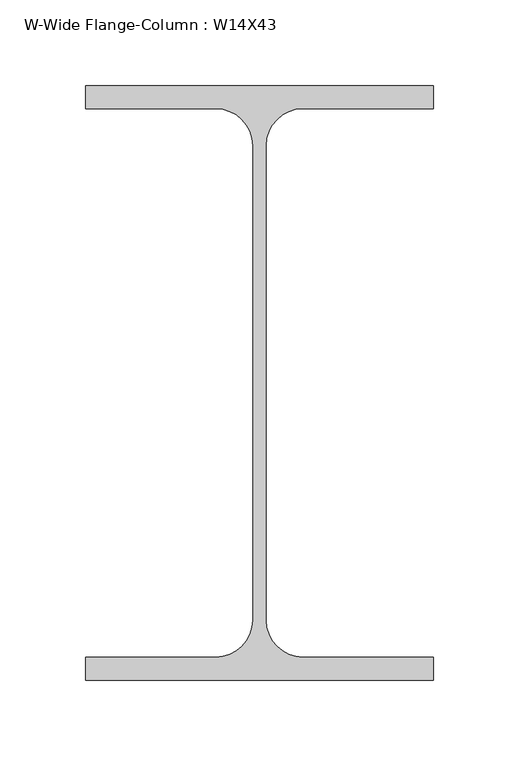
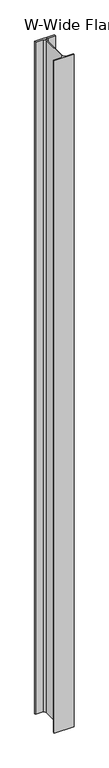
"""IFC4 building model written with IfcOpenShell, lengths in millimetres: column geometry, W-Wide Flange-Column : W14X43."""

from ifc_helpers import new_model, si_unit, point, frame_2d, origin, origin_with_axes, place, context, project, spatial, polyline, circle_curve, trimmed, segment, composite_curve, outline, extrude, source, transform, mapped, element, save


def w_wide_flange_column_w14x43_64da9754(model_context):
    return source(origin(), model_context, "Body", "SweptSolid", [
        extrude(outline(composite_curve([segment(polyline([(101.5503906, 173.4839844), (101.5503906, 159.9902344), (25.3007812, 159.9902344)]), True, "CONTINUOUS"), segment(trimmed(circle_curve(frame_2d((25.3007812, 138.5589844)), 21.43125), [point((25.3007812, 159.9902344))], [point((3.8695312, 138.5589844))], True, "CARTESIAN"), True, "CONTINUOUS"), segment(polyline([(3.8695312, 138.5589844), (3.8695312, -138.5589844)]), True, "CONTINUOUS"), segment(trimmed(circle_curve(frame_2d((25.3007812, -138.5589844)), 21.43125), [point((3.8695312, -138.5589844))], [point((25.3007812, -159.9902344))], True, "CARTESIAN"), True, "CONTINUOUS"), segment(polyline([(25.3007812, -159.9902344), (101.5503906, -159.9902344), (101.5503906, -173.4839844), (-101.5503906, -173.4839844), (-101.5503906, -159.9902344), (-25.3007813, -159.9902344)]), True, "CONTINUOUS"), segment(trimmed(circle_curve(frame_2d((-25.3007813, -138.5589844)), 21.43125), [point((-25.3007813, -159.9902344))], [point((-3.8695313, -138.5589844))], True, "CARTESIAN"), True, "CONTINUOUS"), segment(polyline([(-3.8695313, -138.5589844), (-3.8695313, 138.5589844)]), True, "CONTINUOUS"), segment(trimmed(circle_curve(frame_2d((-25.3007813, 138.5589844)), 21.43125), [point((-3.8695313, 138.5589844))], [point((-25.3007813, 159.9902344))], True, "CARTESIAN"), True, "CONTINUOUS"), segment(polyline([(-25.3007813, 159.9902344), (-101.5503906, 159.9902344), (-101.5503906, 173.4839844), (101.5503906, 173.4839844)]), True, "CONTINUOUS")], self_intersect=False)), origin_with_axes(), (0.0, 0.0, 1.0), 7270.75),
    ])


if __name__ == "__main__":
    model = new_model("IFC4")
    model_context = context("Model", 3, world=origin())
    ifc_project = project(units=[si_unit("LENGTHUNIT", "METRE", prefix="MILLI")], contexts=[model_context])
    site = spatial("IfcSite", under=ifc_project)
    building = spatial("IfcBuilding", under=site)
    placement = place(None, origin())
    w_wide_flange_column_w14x43_shape = w_wide_flange_column_w14x43_64da9754(model_context)
    element("IfcColumn", 1, ObjectType="W-Wide Flange-Column : W14X43", at=placement, inside=building, context=model_context, shape_type="MappedRepresentation", body=[
        mapped(w_wide_flange_column_w14x43_shape, transform((0.0, 0.0, 0.0), x_axis=(1.0, 0.0, 0.0), y_axis=(0.0, 1.0, 0.0), z_axis=(0.0, 0.0, 1.0))),
    ])
    save(model, "model.ifc")
